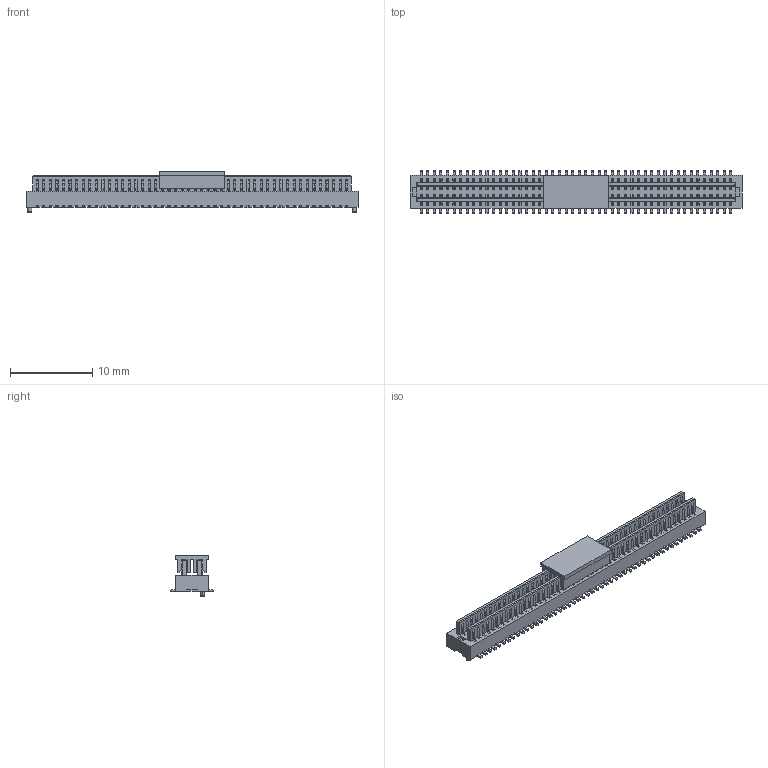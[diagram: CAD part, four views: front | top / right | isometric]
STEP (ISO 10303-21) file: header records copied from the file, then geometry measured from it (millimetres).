
FILE_DESCRIPTION (( 'STEP AP203' ), '1' );
FILE_NAME ('HC-PBB08-2-96-M-H2.0-G1-R-P-04(BTB0.8 双槽 公座 立贴 带柱 编带+盖)-HCTL.STEP', '2025-12-11T03:55:45', ( '' ), ( '' ), 'SwSTEP 2.0', 'SolidWorks 2025', '' );
FILE_SCHEMA (( 'CONFIG_CONTROL_DESIGN' ));
Products named in the file (1): HC-PBB08-2-96-M-H2.0-G1-R-P-04(BTB0.8 双槽 公座 立贴 带柱 编带+盖)-HCTL
Bounding box: 40.3 x 5.2 x 4.95 mm (x, y, z)
Volume: 417.1 mm3; surface area: 2403.5 mm2
Topology: 2 solids, 2 shells, 5552 faces, 17862 edges, 11648 vertices
Faces by surface type: plane 3624, cylinder 1924, torus 4
Entity records: 197277 total; most frequent: CARTESIAN_POINT 36215, ORIENTED_EDGE 35724, DIRECTION 32440, EDGE_CURVE 17862, LINE 13622, VECTOR 13622, VERTEX_POINT 11648, AXIS2_PLACEMENT_3D 9409
